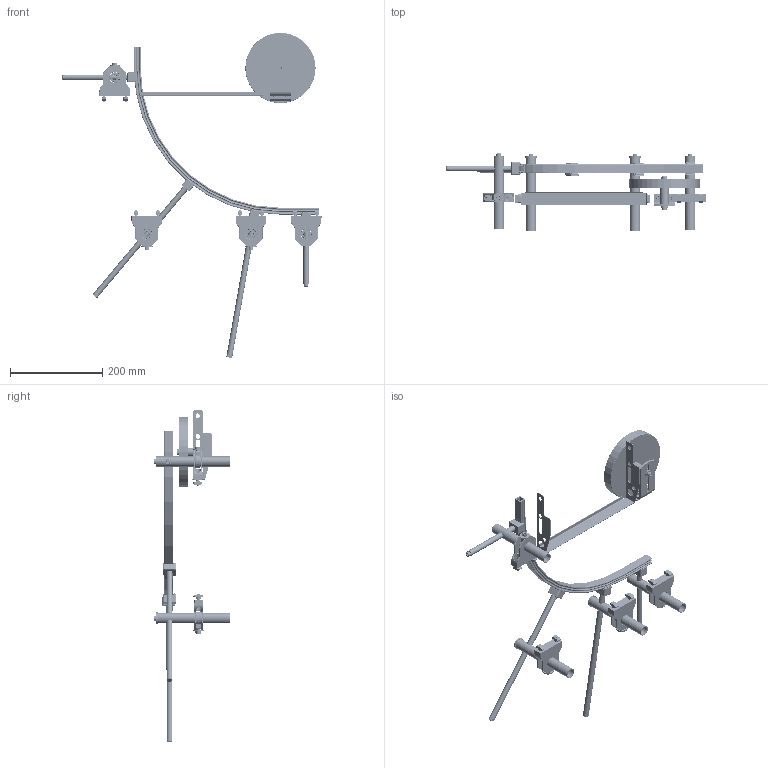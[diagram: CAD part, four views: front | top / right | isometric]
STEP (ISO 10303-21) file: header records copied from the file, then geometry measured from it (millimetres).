
FILE_DESCRIPTION (( 'STEP AP203' ), '1' );
FILE_NAME ('206524-10.STEP', '2016-09-22T13:15:13', ( '' ), ( '' ), 'SwSTEP 2.0', 'SolidWorks 2015', '' );
FILE_SCHEMA (( 'CONFIG_CONTROL_DESIGN' ));
Length unit declared in the file: inch
Products named in the file (32): 911-710_911-710; 807-920; 207138-WW_10; X26235_206686-2; 206383_206383; 206386; 234013M; 234006; 234005M; 206381_206381; 911-709_91090A107; 207125-WW_207125-10; 206385_0.875OD; 206397_206397; 200830M; 807-2859_91760A321; 9206XXM_920614M; 206382_206382_DRAFTS; 605279P; 207139_207139-10A; 9206XXM_9206150M; 9706XXM_970620M; 915-218; 207139_207139-10B; 206524-10; 206380; 206685; 234007M; 990601M; 234003M; 9206XXM_920616M; X26235_206686-1
Assembly tree (92 placements, depth 3):
  206524-10
    234006
    9206XXM_920616M
    9206XXM_920614M  x2
    200830M
    234007M
    605279P
    234003M
    915-218
    234005M
    207125-WW_207125-10
    207138-WW_10
    X26235_206686-2
      206380
      206381_206381
      206385_0.875OD
      206382_206382_DRAFTS
      206383_206383
      206397_206397
      911-709_91090A107  x2
      9206XXM_920614M  x2
      206685  x2
      807-920  x2
      990601M
      206386
      9206XXM_9206150M
      807-2859_91760A321  x2
    X26235_206686-1
      206380
      206381_206381
      206385_0.875OD
      206382_206382_DRAFTS
      206383_206383
      206397_206397
      911-709_91090A107  x2
      9206XXM_920614M  x2
      206685  x2
      807-920  x2
      990601M
      206386
      9206XXM_9206150M
      807-2859_91760A321  x2
    207139_207139-10A
      206380
      206381_206381
      206385_0.875OD
      206382_206382_DRAFTS
      206383_206383
      206397_206397
      911-710_911-710  x2
      9206XXM_920614M  x2
      206685  x2
      807-920  x2
      990601M
      807-2859_91760A321  x2
      234013M
      9706XXM_970620M
    207139_207139-10B
      206380
      206381_206381
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Bounding box: 561.61 x 166.66 x 719.79 mm (x, y, z)
Volume: 865117.9 mm3; surface area: 458264.1 mm2
Topology: 88 solids, 88 shells, 4505 faces, 11060 edges, 6650 vertices
Faces by surface type: cylinder 1887, plane 1014, cone 590, bspline 586, torus 332, sphere 96
Entity records: 56219 total; most frequent: CARTESIAN_POINT 23740, ORIENTED_EDGE 5910, DIRECTION 5647, EDGE_CURVE 2955, AXIS2_PLACEMENT_3D 2216, VERTEX_POINT 1789, EDGE_LOOP 1310, ADVANCED_FACE 1226
